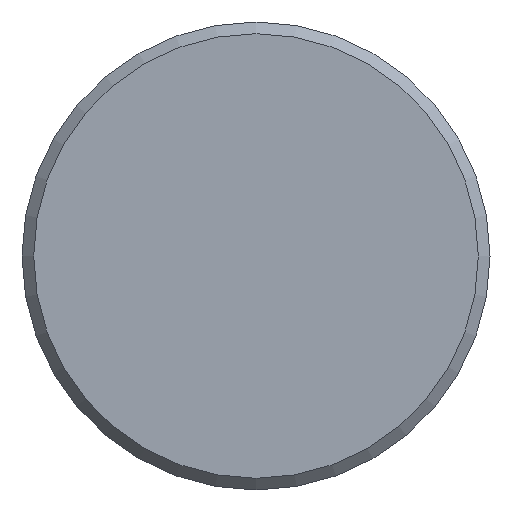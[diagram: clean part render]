
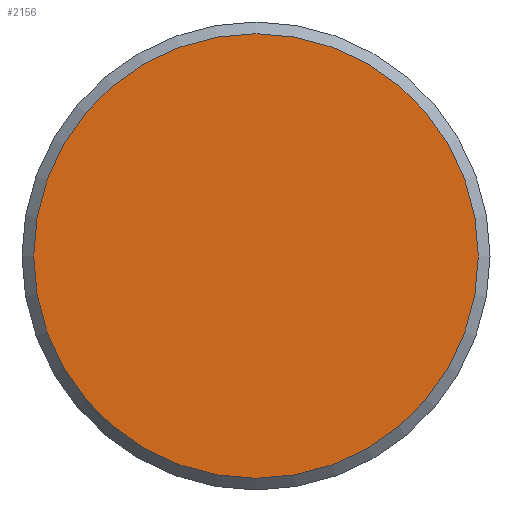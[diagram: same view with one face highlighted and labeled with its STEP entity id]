
A CAD part, left-side view. The second image highlights one B-rep face of the part: STEP entity #2156.
In plain terms, the highlighted planar face has unit normal (-1, 0, 0).
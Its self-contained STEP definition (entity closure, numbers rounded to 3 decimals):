
#782=PLANE('',#1985);
#814=ORIENTED_EDGE('',*,*,#1100,.F.);
#956=CIRCLE('',#1984,9.5);
#1028=VERTEX_POINT('',#1764);
#1100=EDGE_CURVE('',#1028,#1028,#956,.T.);
#1174=EDGE_LOOP('',(#814));
#1318=FACE_BOUND('',#1174,.T.);
#1466=DIRECTION('',(1.,0.,0.));
#1467=DIRECTION('',(0.,-9.5,0.));
#1468=DIRECTION('',(-1.,0.,0.));
#1469=DIRECTION('',(0.,1.,0.));
#1764=CARTESIAN_POINT('',(0.,-9.5,0.));
#1765=CARTESIAN_POINT('',(0.,0.,0.));
#1766=CARTESIAN_POINT('',(0.,0.,0.));
#1984=AXIS2_PLACEMENT_3D('',#1765,#1466,#1467);
#1985=AXIS2_PLACEMENT_3D('',#1766,#1468,#1469);
#2156=ADVANCED_FACE('',(#1318),#782,.T.);
